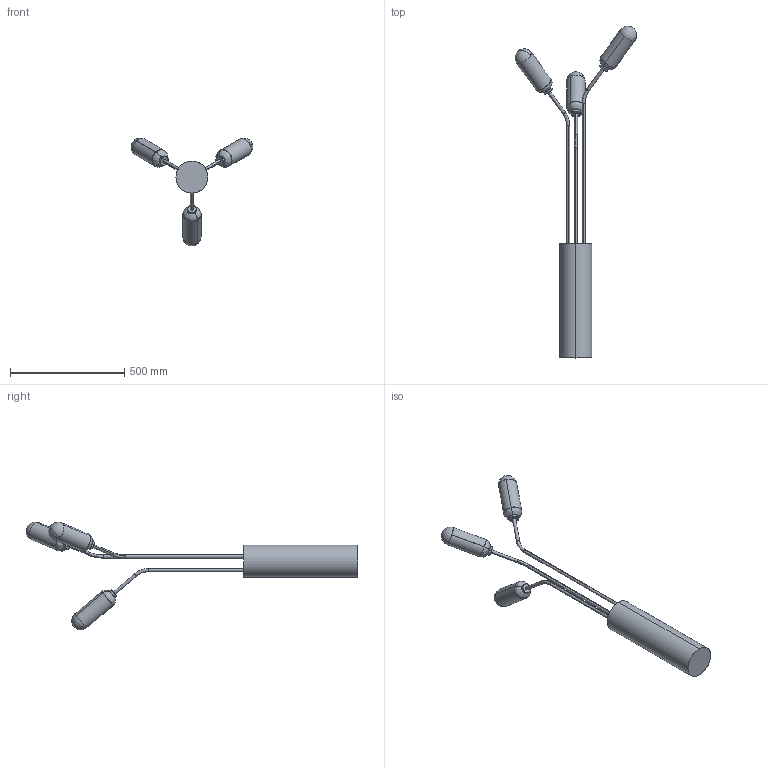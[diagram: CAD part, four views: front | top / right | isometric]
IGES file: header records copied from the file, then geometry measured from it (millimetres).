
Start section: SolidWorks IGES file using analytic representation for surfaces
Global section: file name: C:\Users\Agustin\Desktop\ARNOLD\2024 SEPTIEMBRE\2D\LARI\2D-3D P1333\LARI_P1333.IGS; native system: SolidWorks 2018; preprocessor: SolidWorks 2018; author: Agustin; date: 240918.105437; units: millimetre
Bounding box: 533.22 x 1454.72 x 473.13 mm (x, y, z)
Surface area: 765931.4 mm2 (no closed solid volume)
Topology: 0 solids, 0 shells, 94 faces, 1592 edges, 1589 vertices
Faces by surface type: revolution 50, bspline 44
